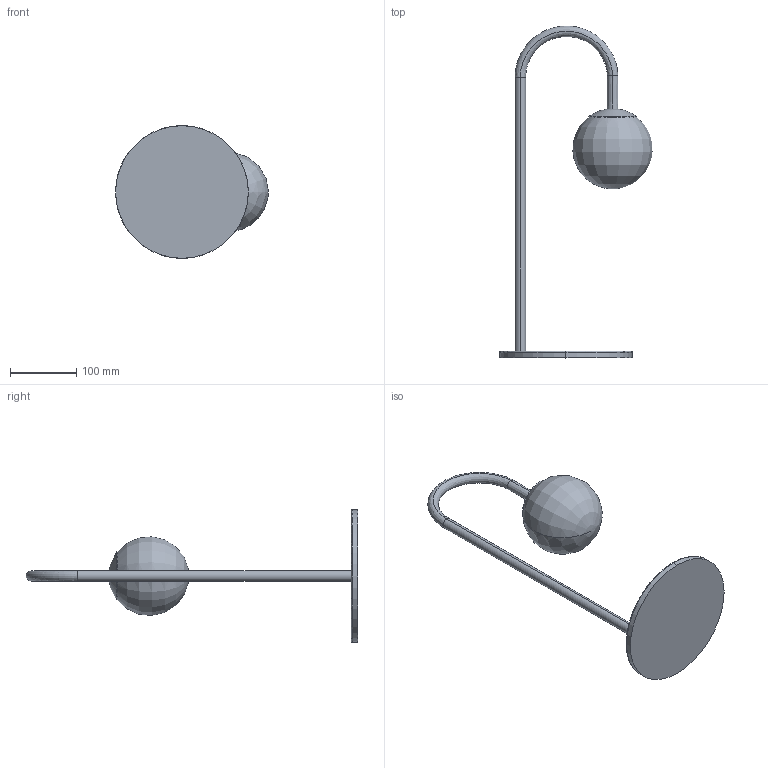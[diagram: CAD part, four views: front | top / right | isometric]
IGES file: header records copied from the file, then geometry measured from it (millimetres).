
Start section: SolidWorks IGES file using analytic representation for surfaces
Global section: file name: Y:\eforma\TECNICO\SOLIDWORKS\E-FORMA\09-LAMPADE\DECOR\02 parts\DECL2_Decor 1 tavolo.IGS; native system: SolidWorks 2022; preprocessor: SolidWorks 2022; author: eforma.tech; date: 240806.104330; units: millimetre
Bounding box: 230.31 x 500.26 x 200 mm (x, y, z)
Volume: 1358973.1 mm3; surface area: 147902.9 mm2
Topology: 1 solids, 1 shells, 19 faces, 38 edges, 21 vertices
Faces by surface type: revolution 12, bspline 4, plane 3
